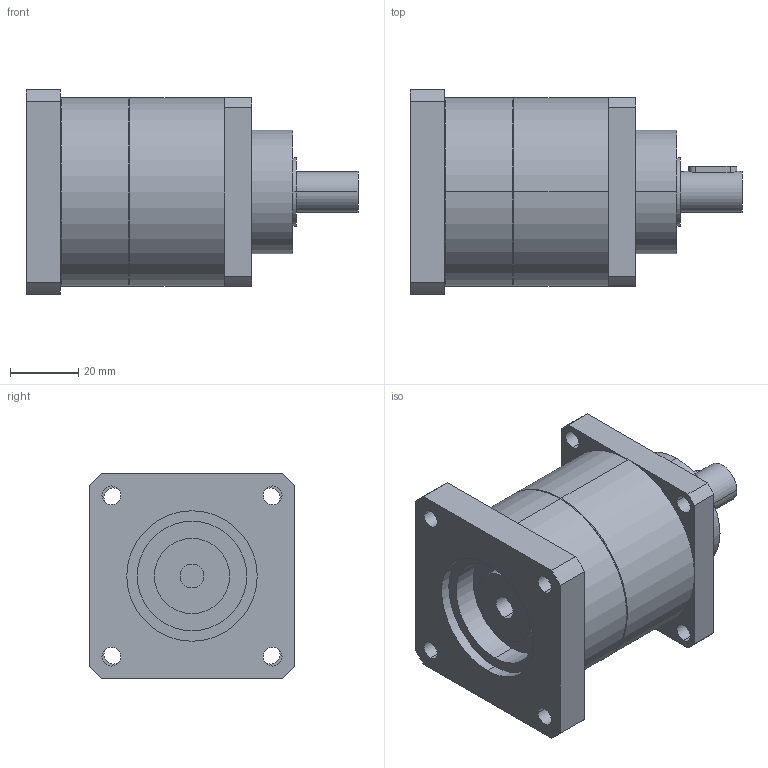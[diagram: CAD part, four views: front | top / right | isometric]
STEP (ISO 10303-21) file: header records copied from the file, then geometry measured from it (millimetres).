
FILE_DESCRIPTION(('CoCreate Modeling STEP Export'),'2;1');
FILE_NAME('GPT55_ig-3-4-5-7-10_12_B5A_7_P02.stp','2014-08-25T14:33:20',(''),(''),'CoCreate Modeling STEP processor for AP214 (Solid Model)','CoCreate Modeling 16.00C 25-Feb-2009 (C) Parametric Technology GmbH','');
FILE_SCHEMA(('AUTOMOTIVE_DESIGN { 1 0 10303 214 1 1 1 1 }'));
Length unit declared in the file: millimetre
Products named in the file (2): GPT55_ig-3-4-5-7-10_12_B5A_7_P02
Assembly tree (1 placements, depth 2):
  GPT55_ig-3-4-5-7-10_12_B5A_7_P02
    GPT55_ig-3-4-5-7-10_12_B5A_7_P02
Bounding box: 97 x 60 x 60 mm (x, y, z)
Volume: 177885.2 mm3; surface area: 25806.9 mm2
Topology: 1 solids, 1 shells, 77 faces, 204 edges, 139 vertices
Faces by surface type: cylinder 46, plane 27, cone 4
Entity records: 2515 total; most frequent: CARTESIAN_POINT 710, ORIENTED_EDGE 408, DIRECTION 318, EDGE_CURVE 204, VERTEX_POINT 139, AXIS2_PLACEMENT_3D 117, EDGE_LOOP 103, VECTOR 84
